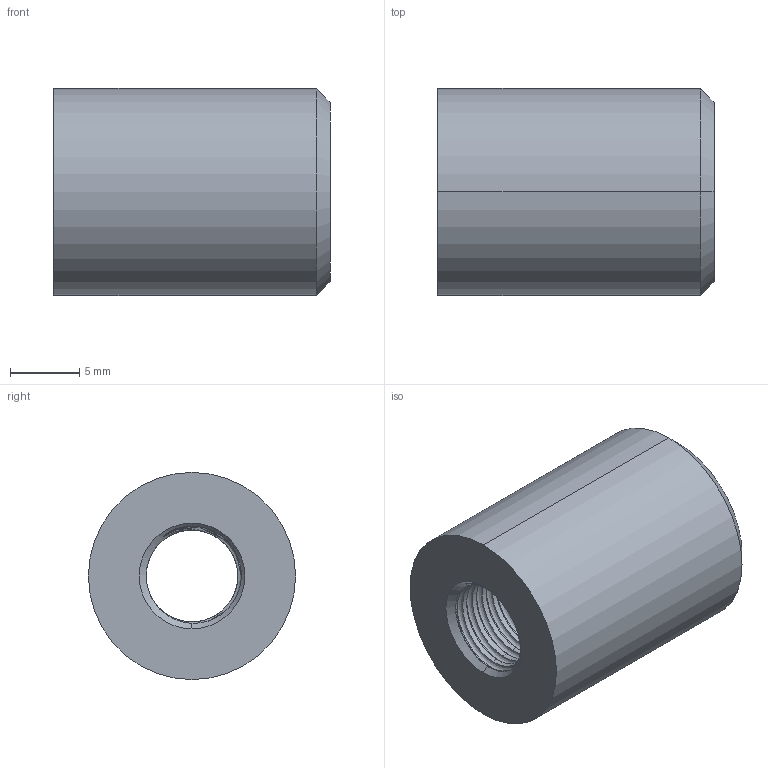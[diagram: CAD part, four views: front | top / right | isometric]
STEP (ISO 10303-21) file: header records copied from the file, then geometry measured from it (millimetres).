
FILE_DESCRIPTION (( 'STEP AP203' ), '1' );
FILE_NAME ('KD-208-5.STEP', '2009-08-13T08:57:42', ( 'kj06' ), ( 'kongjin' ), 'SwSTEP 2.0', 'SolidWorks 2007', '' );
FILE_SCHEMA (( 'CONFIG_CONTROL_DESIGN' ));
Length unit declared in the file: millimetre
Products named in the file (1): KD-208-5
Bounding box: 20 x 15 x 15 mm (x, y, z)
Volume: 2745.8 mm3; surface area: 1747 mm2
Topology: 1 solids, 1 shells, 52 faces, 146 edges, 96 vertices
Faces by surface type: cylinder 41, cone 7, bspline 2, plane 2
Entity records: 11028 total; most frequent: CARTESIAN_POINT 9845, ORIENTED_EDGE 292, DIRECTION 177, EDGE_CURVE 146, VERTEX_POINT 96, AXIS2_PLACEMENT_3D 65, EDGE_LOOP 54, ADVANCED_FACE 52
